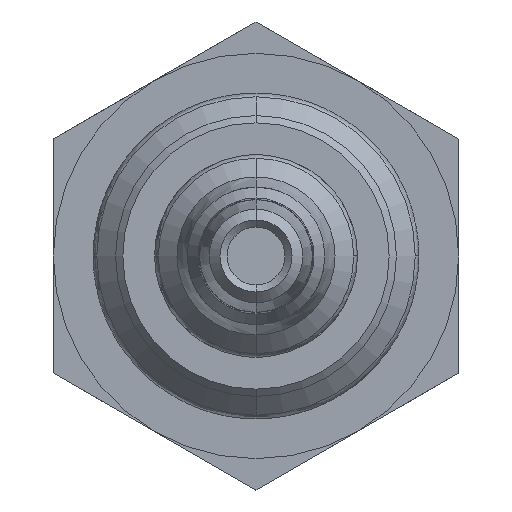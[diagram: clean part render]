
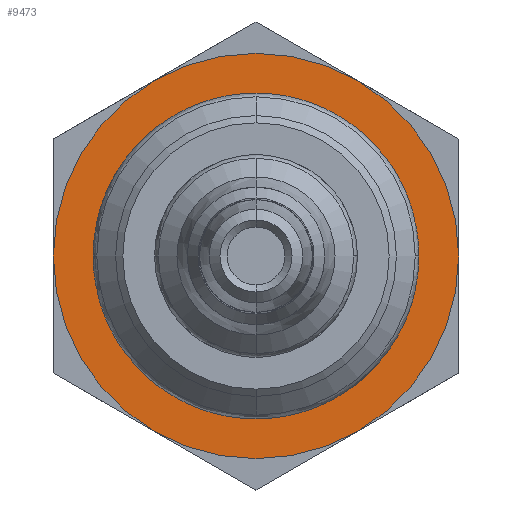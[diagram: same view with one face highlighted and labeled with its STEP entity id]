
A CAD part, front view. The second image highlights one B-rep face of the part: STEP entity #9473.
In plain terms, the highlighted planar face has unit normal (0, -1, 0).
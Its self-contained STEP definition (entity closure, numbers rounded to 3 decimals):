
#44 = ORIENTED_EDGE ( 'NONE', *, *, #9267, .F. ) ;
#45 = ORIENTED_EDGE ( 'NONE', *, *, #10327, .F. ) ;
#903 = CARTESIAN_POINT ( 'NONE',  ( 0., 35.499, 0. ) ) ;
#904 = DIRECTION ( 'NONE',  ( 0., 1., 0. ) ) ;
#905 = DIRECTION ( 'NONE',  ( 0., 0., 1. ) ) ;
#907 = CARTESIAN_POINT ( 'NONE',  ( 0., 35.499, 0. ) ) ;
#908 = DIRECTION ( 'NONE',  ( 0., 1., 0. ) ) ;
#909 = DIRECTION ( 'NONE',  ( 0., 0., 1. ) ) ;
#912 = CARTESIAN_POINT ( 'NONE',  ( 0., 35.499, 0. ) ) ;
#913 = DIRECTION ( 'NONE',  ( 0., 1., 0. ) ) ;
#914 = DIRECTION ( 'NONE',  ( 0., 0., 1. ) ) ;
#3116 = CIRCLE ( 'NONE', #8516, 10.25 ) ;
#3142 = CIRCLE ( 'NONE', #8515, 10.25 ) ;
#3148 = CIRCLE ( 'NONE', #8514, 14. ) ;
#3213 = FACE_OUTER_BOUND ( 'NONE', #11202, .T. ) ;
#3214 = FACE_BOUND ( 'NONE', #11206, .T. ) ;
#3478 = CARTESIAN_POINT ( 'NONE',  ( 0., 35.499, 14. ) ) ;
#3481 = CARTESIAN_POINT ( 'NONE',  ( 0., 35.499, -14. ) ) ;
#3542 = VERTEX_POINT ( 'NONE', #3478 ) ;
#3543 = VERTEX_POINT ( 'NONE', #3481 ) ;
#5609 = VERTEX_POINT ( 'NONE', #8296 ) ;
#5614 = VERTEX_POINT ( 'NONE', #8301 ) ;
#6173 = CARTESIAN_POINT ( 'NONE',  ( 0., 35.499, 0. ) ) ;
#6174 = DIRECTION ( 'NONE',  ( 0., 1., 0. ) ) ;
#6175 = DIRECTION ( 'NONE',  ( 0., 0., 1. ) ) ;
#6559 = PLANE ( 'NONE',  #8534 ) ;
#6566 = CARTESIAN_POINT ( 'NONE',  ( 10.25, 35.499, 0. ) ) ;
#6567 = DIRECTION ( 'NONE',  ( 0., 1., 0. ) ) ;
#6568 = DIRECTION ( 'NONE',  ( 0., 0., 1. ) ) ;
#7925 = CIRCLE ( 'NONE', #11619, 14. ) ;
#8296 = CARTESIAN_POINT ( 'NONE',  ( 0., 35.499, 10.25 ) ) ;
#8301 = CARTESIAN_POINT ( 'NONE',  ( 0., 35.499, -10.25 ) ) ;
#8514 = AXIS2_PLACEMENT_3D ( 'NONE', #903, #904, #905 ) ;
#8515 = AXIS2_PLACEMENT_3D ( 'NONE', #907, #908, #909 ) ;
#8516 = AXIS2_PLACEMENT_3D ( 'NONE', #912, #913, #914 ) ;
#8534 = AXIS2_PLACEMENT_3D ( 'NONE', #6566, #6567, #6568 ) ;
#9267 = EDGE_CURVE ( 'NONE', #3543, #3542, #3148, .T. ) ;
#9268 = EDGE_CURVE ( 'NONE', #5609, #5614, #3142, .T. ) ;
#9269 = EDGE_CURVE ( 'NONE', #5614, #5609, #3116, .T. ) ;
#9473 = ADVANCED_FACE ( 'NONE', ( #3213, #3214 ), #6559, .F. ) ;
#10327 = EDGE_CURVE ( 'NONE', #3542, #3543, #7925, .T. ) ;
#11079 = ORIENTED_EDGE ( 'NONE', *, *, #9268, .T. ) ;
#11086 = ORIENTED_EDGE ( 'NONE', *, *, #9269, .T. ) ;
#11202 = EDGE_LOOP ( 'NONE', ( #45, #44 ) ) ;
#11206 = EDGE_LOOP ( 'NONE', ( #11079, #11086 ) ) ;
#11619 = AXIS2_PLACEMENT_3D ( 'NONE', #6173, #6174, #6175 ) ;
